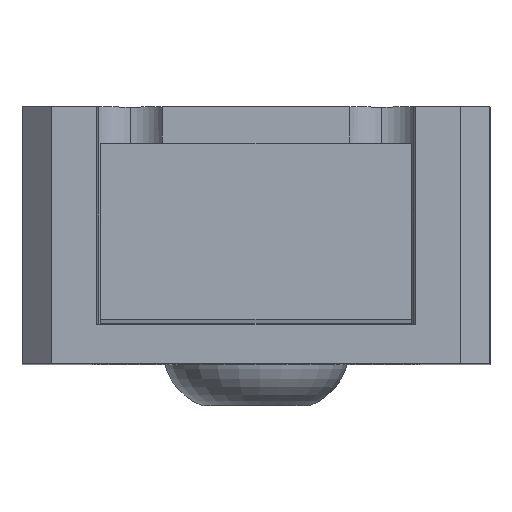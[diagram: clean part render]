
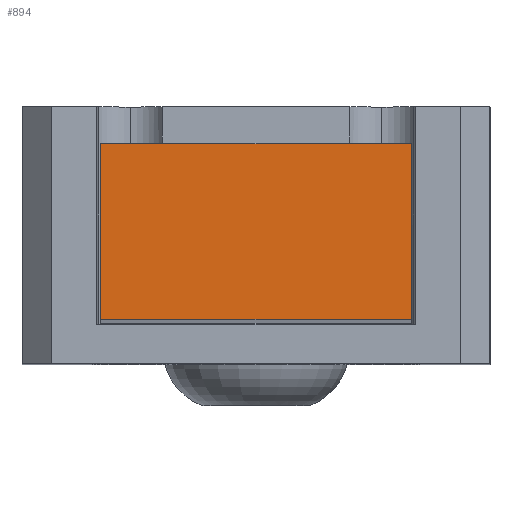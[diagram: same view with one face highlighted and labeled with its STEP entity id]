
A CAD part, top view. The second image highlights one B-rep face of the part: STEP entity #894.
In plain terms, the highlighted planar face has unit normal (0, 0, 1).
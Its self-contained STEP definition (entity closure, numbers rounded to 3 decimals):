
#77 = DIRECTION ( 'NONE',  ( 1., 0., 0. ) ) ;
#254 = VECTOR ( 'NONE', #1461, 1000. ) ;
#274 = DIRECTION ( 'NONE',  ( 0., 1., 0. ) ) ;
#313 = EDGE_CURVE ( 'NONE', #2235, #419, #1070, .T. ) ;
#419 = VERTEX_POINT ( 'NONE', #502 ) ;
#426 = LINE ( 'NONE', #2403, #1049 ) ;
#502 = CARTESIAN_POINT ( 'NONE',  ( 2.65, -1.5, 43.418 ) ) ;
#532 = AXIS2_PLACEMENT_3D ( 'NONE', #2229, #542, #77 ) ;
#542 = DIRECTION ( 'NONE',  ( 0., 0., 1. ) ) ;
#595 = CARTESIAN_POINT ( 'NONE',  ( 2.65, 1.5, 43.418 ) ) ;
#616 = ORIENTED_EDGE ( 'NONE', *, *, #313, .T. ) ;
#649 = DIRECTION ( 'NONE',  ( 0., -1., 0. ) ) ;
#697 = VERTEX_POINT ( 'NONE', #835 ) ;
#814 = CARTESIAN_POINT ( 'NONE',  ( 2.65, 1.5, 43.418 ) ) ;
#835 = CARTESIAN_POINT ( 'NONE',  ( -2.65, 1.5, 43.418 ) ) ;
#894 = ADVANCED_FACE ( 'NONE', ( #2425 ), #1138, .T. ) ;
#1036 = ORIENTED_EDGE ( 'NONE', *, *, #1283, .T. ) ;
#1049 = VECTOR ( 'NONE', #649, 1000. ) ;
#1070 = LINE ( 'NONE', #1317, #1139 ) ;
#1072 = EDGE_CURVE ( 'NONE', #1803, #697, #1660, .T. ) ;
#1079 = CARTESIAN_POINT ( 'NONE',  ( 2.65, 1.5, 43.418 ) ) ;
#1138 = PLANE ( 'NONE',  #532 ) ;
#1139 = VECTOR ( 'NONE', #2472, 1000. ) ;
#1283 = EDGE_CURVE ( 'NONE', #697, #2235, #426, .T. ) ;
#1317 = CARTESIAN_POINT ( 'NONE',  ( -2.65, -1.5, 43.418 ) ) ;
#1380 = ORIENTED_EDGE ( 'NONE', *, *, #1072, .T. ) ;
#1392 = EDGE_CURVE ( 'NONE', #419, #1803, #1599, .T. ) ;
#1461 = DIRECTION ( 'NONE',  ( -1., 0., 0. ) ) ;
#1599 = LINE ( 'NONE', #595, #1991 ) ;
#1660 = LINE ( 'NONE', #814, #254 ) ;
#1803 = VERTEX_POINT ( 'NONE', #1079 ) ;
#1991 = VECTOR ( 'NONE', #274, 1000. ) ;
#2147 = ORIENTED_EDGE ( 'NONE', *, *, #1392, .T. ) ;
#2221 = EDGE_LOOP ( 'NONE', ( #2147, #1380, #1036, #616 ) ) ;
#2229 = CARTESIAN_POINT ( 'NONE',  ( 2.65, -1.5, 43.418 ) ) ;
#2235 = VERTEX_POINT ( 'NONE', #2455 ) ;
#2403 = CARTESIAN_POINT ( 'NONE',  ( -2.65, 1.5, 43.418 ) ) ;
#2425 = FACE_OUTER_BOUND ( 'NONE', #2221, .T. ) ;
#2455 = CARTESIAN_POINT ( 'NONE',  ( -2.65, -1.5, 43.418 ) ) ;
#2472 = DIRECTION ( 'NONE',  ( 1., 0., 0. ) ) ;
